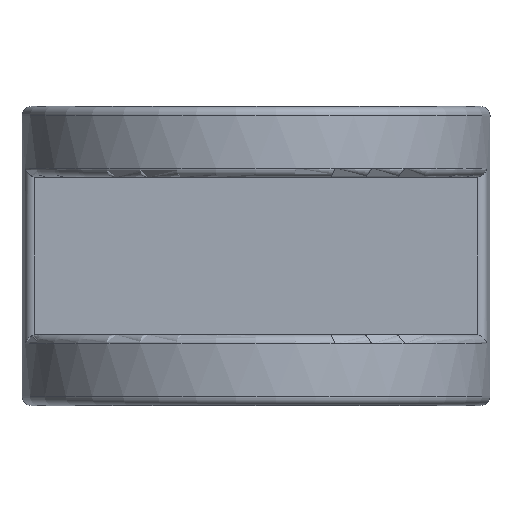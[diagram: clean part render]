
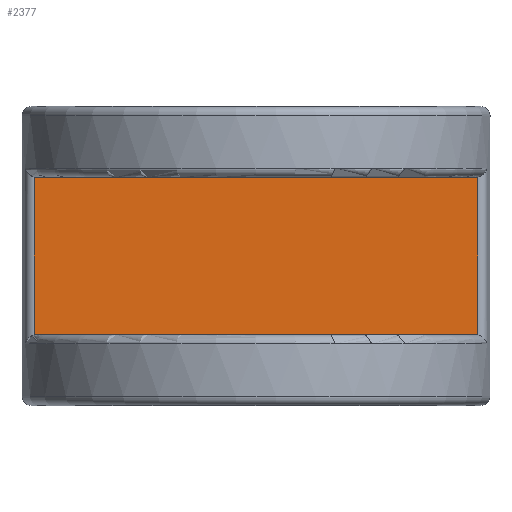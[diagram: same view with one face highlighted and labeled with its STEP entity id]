
A CAD part, front view. The second image highlights one B-rep face of the part: STEP entity #2377.
In plain terms, the highlighted planar face has unit normal (0, -1, 0).
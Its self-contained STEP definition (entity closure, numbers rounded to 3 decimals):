
#706=DIRECTION('',(1.,0.,0.));
#707=VECTOR('',#706,24.269);
#708=CARTESIAN_POINT('',(2.865,28.96,-4.35));
#709=LINE('',#708,#707);
#766=DIRECTION('',(-1.,0.,0.));
#767=VECTOR('',#766,24.269);
#768=CARTESIAN_POINT('',(27.135,28.96,4.35));
#769=LINE('',#768,#767);
#781=CARTESIAN_POINT('',(27.247,28.96,4.362));
#783=CARTESIAN_POINT('',(27.247,28.96,4.362));
#784=CARTESIAN_POINT('',(27.235,28.96,4.359));
#785=CARTESIAN_POINT('',(27.21,28.96,4.355));
#786=CARTESIAN_POINT('',(27.172,28.96,4.351));
#787=CARTESIAN_POINT('',(27.147,28.96,4.35));
#788=CARTESIAN_POINT('',(27.135,28.96,4.35));
#795=CARTESIAN_POINT('',(2.865,28.96,4.35));
#796=CARTESIAN_POINT('',(2.846,28.96,4.35));
#797=CARTESIAN_POINT('',(2.809,28.96,4.352));
#798=CARTESIAN_POINT('',(2.771,28.96,4.358));
#799=CARTESIAN_POINT('',(2.753,28.96,4.362));
#809=DIRECTION('',(0.,0.,1.));
#810=VECTOR('',#809,8.724);
#811=CARTESIAN_POINT('',(27.247,28.96,-4.362));
#812=LINE('',#811,#810);
#817=DIRECTION('',(0.,0.,1.));
#818=VECTOR('',#817,8.724);
#819=CARTESIAN_POINT('',(2.753,28.96,-4.362));
#820=LINE('',#819,#818);
#832=CARTESIAN_POINT('',(2.753,28.96,-4.362));
#834=CARTESIAN_POINT('',(2.753,28.96,-4.362));
#835=CARTESIAN_POINT('',(2.771,28.96,-4.358));
#836=CARTESIAN_POINT('',(2.809,28.96,-4.352));
#837=CARTESIAN_POINT('',(2.847,28.96,-4.35));
#838=CARTESIAN_POINT('',(2.865,28.96,-4.35));
#845=CARTESIAN_POINT('',(27.135,28.96,-4.35));
#846=CARTESIAN_POINT('',(27.147,28.96,-4.35));
#847=CARTESIAN_POINT('',(27.172,28.96,-4.351));
#848=CARTESIAN_POINT('',(27.21,28.96,-4.355));
#849=CARTESIAN_POINT('',(27.235,28.96,-4.359));
#850=CARTESIAN_POINT('',(27.247,28.96,-4.362));
#1000=CARTESIAN_POINT('',(2.865,28.96,-4.35));
#1001=CARTESIAN_POINT('',(27.135,28.96,-4.35));
#1002=VERTEX_POINT('',#1000);
#1003=VERTEX_POINT('',#1001);
#1004=CARTESIAN_POINT('',(27.135,28.96,4.35));
#1005=CARTESIAN_POINT('',(2.865,28.96,4.35));
#1006=VERTEX_POINT('',#1004);
#1007=VERTEX_POINT('',#1005);
#1009=VERTEX_POINT('',#832);
#1010=VERTEX_POINT('',#850);
#1012=VERTEX_POINT('',#799);
#1015=VERTEX_POINT('',#781);
#2359=CARTESIAN_POINT('',(28.781,28.96,-4.25));
#2360=DIRECTION('',(0.,1.,0.));
#2361=DIRECTION('',(-1.,0.,0.));
#2362=AXIS2_PLACEMENT_3D('',#2359,#2360,#2361);
#2363=PLANE('',#2362);
#2364=ORIENTED_EDGE('',*,*,#2350,.F.);
#2366=ORIENTED_EDGE('',*,*,#2365,.F.);
#2367=ORIENTED_EDGE('',*,*,#2202,.F.);
#2369=ORIENTED_EDGE('',*,*,#2368,.F.);
#2371=ORIENTED_EDGE('',*,*,#2370,.T.);
#2372=ORIENTED_EDGE('',*,*,#2338,.F.);
#2373=ORIENTED_EDGE('',*,*,#2309,.F.);
#2374=ORIENTED_EDGE('',*,*,#2335,.F.);
#2375=EDGE_LOOP('',(#2364,#2366,#2367,#2369,#2371,#2372,#2373,#2374));
#2376=FACE_OUTER_BOUND('',#2375,.F.);
#2377=ADVANCED_FACE('',(#2376),#2363,.F.);
#789=B_SPLINE_CURVE_WITH_KNOTS('',3,(#783,#784,#785,#786,#787,#788),
.UNSPECIFIED.,.F.,.F.,(4,1,1,4),(0.,0.333,0.667,1.),
.UNSPECIFIED.);
#800=B_SPLINE_CURVE_WITH_KNOTS('',3,(#795,#796,#797,#798,#799),.UNSPECIFIED.,
.F.,.F.,(4,1,4),(0.,0.5,1.),.UNSPECIFIED.);
#839=B_SPLINE_CURVE_WITH_KNOTS('',3,(#834,#835,#836,#837,#838),.UNSPECIFIED.,
.F.,.F.,(4,1,4),(0.,0.5,1.),.UNSPECIFIED.);
#851=B_SPLINE_CURVE_WITH_KNOTS('',3,(#845,#846,#847,#848,#849,#850),
.UNSPECIFIED.,.F.,.F.,(4,1,1,4),(0.,0.333,0.667,1.),
.UNSPECIFIED.);
#2202=EDGE_CURVE('',#1002,#1003,#709,.T.);
#2309=EDGE_CURVE('',#1006,#1007,#769,.T.);
#2335=EDGE_CURVE('',#1015,#1006,#789,.T.);
#2338=EDGE_CURVE('',#1007,#1012,#800,.T.);
#2350=EDGE_CURVE('',#1010,#1015,#812,.T.);
#2365=EDGE_CURVE('',#1003,#1010,#851,.T.);
#2368=EDGE_CURVE('',#1009,#1002,#839,.T.);
#2370=EDGE_CURVE('',#1009,#1012,#820,.T.);
